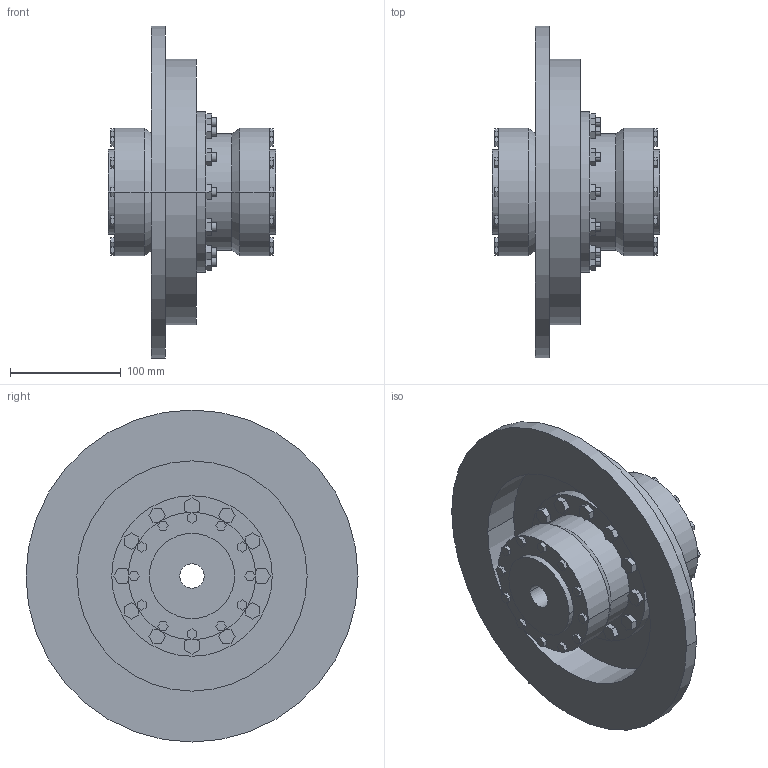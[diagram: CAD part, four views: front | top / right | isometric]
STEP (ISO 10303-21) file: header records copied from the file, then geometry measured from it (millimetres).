
FILE_DESCRIPTION((''),'2;1');
FILE_NAME('A19100700-0_ASM','2018-11-12T',('AB_Roschiwal'),('RENK AG'),'PRO/ENGINEER BY PARAMETRIC TECHNOLOGY CORPORATION, 2015440','PRO/ENGINEER BY PARAMETRIC TECHNOLOGY CORPORATION, 2015440','');
FILE_SCHEMA(('CONFIG_CONTROL_DESIGN'));
Length unit declared in the file: millimetre
Products named in the file (4): SBKD48_GEHAEUSE; SBKD48_NABE; SBKD48_BREMSSCHEIBE; A19100700-0_ASM
Assembly tree (4 placements, depth 2):
  A19100700-0_ASM
    SBKD48_GEHAEUSE
    SBKD48_NABE  x2
    SBKD48_BREMSSCHEIBE
Bounding box: 151 x 300 x 300 mm (x, y, z)
Volume: 2248035.5 mm3; surface area: 406489.2 mm2
Topology: 4 solids, 4 shells, 470 faces, 1156 edges, 768 vertices
Faces by surface type: plane 370, cylinder 96, cone 4
Entity records: 13604 total; most frequent: CARTESIAN_POINT 2350, ORIENTED_EDGE 2264, DIRECTION 2240, EDGE_CURVE 1132, VECTOR 956, LINE 956, VERTEX_POINT 752, AXIS2_PLACEMENT_3D 642
